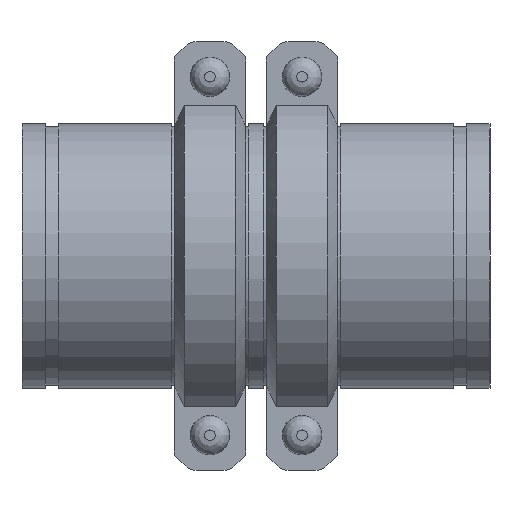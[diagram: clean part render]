
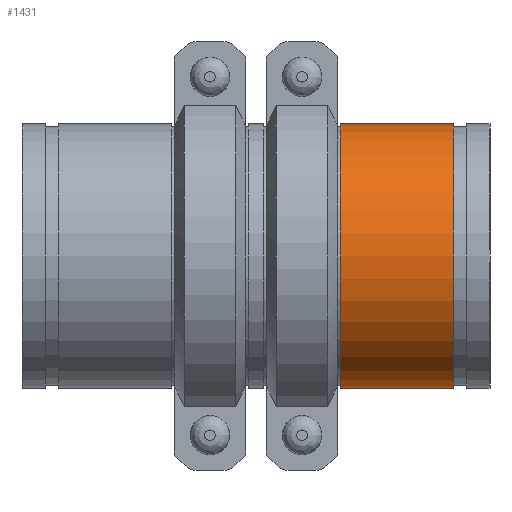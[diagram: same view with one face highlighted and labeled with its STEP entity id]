
A CAD part, front view. The second image highlights one B-rep face of the part: STEP entity #1431.
In plain terms, the highlighted cylindrical face has radius 109.537 mm (diameter 219.075 mm), a full revolution.
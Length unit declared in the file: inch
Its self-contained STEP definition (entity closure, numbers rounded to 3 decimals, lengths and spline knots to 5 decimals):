
#59=LINE('',#2295,#152);
#152=VECTOR('',#1852,4.3125);
#245=CYLINDRICAL_SURFACE('',#1638,4.3125);
#302=FACE_OUTER_BOUND('',#387,.T.);
#387=EDGE_LOOP('',(#940,#941,#942,#943,#944,#945));
#497=CIRCLE('',#1636,4.3125);
#498=CIRCLE('',#1637,4.3125);
#499=CIRCLE('',#1639,4.3125);
#500=CIRCLE('',#1640,4.3125);
#589=VERTEX_POINT('',#2286);
#590=VERTEX_POINT('',#2287);
#591=VERTEX_POINT('',#2291);
#592=VERTEX_POINT('',#2292);
#730=EDGE_CURVE('',#589,#590,#497,.T.);
#731=EDGE_CURVE('',#590,#589,#498,.T.);
#732=EDGE_CURVE('',#591,#592,#499,.T.);
#733=EDGE_CURVE('',#592,#591,#500,.T.);
#734=EDGE_CURVE('',#592,#590,#59,.T.);
#940=ORIENTED_EDGE('',*,*,#732,.F.);
#941=ORIENTED_EDGE('',*,*,#733,.F.);
#942=ORIENTED_EDGE('',*,*,#734,.T.);
#943=ORIENTED_EDGE('',*,*,#731,.T.);
#944=ORIENTED_EDGE('',*,*,#730,.T.);
#945=ORIENTED_EDGE('',*,*,#734,.F.);
#1431=ADVANCED_FACE('',(#302),#245,.T.);
#1636=AXIS2_PLACEMENT_3D('',#2288,#1842,#1843);
#1637=AXIS2_PLACEMENT_3D('',#2289,#1844,#1845);
#1638=AXIS2_PLACEMENT_3D('',#2290,#1846,#1847);
#1639=AXIS2_PLACEMENT_3D('',#2293,#1848,#1849);
#1640=AXIS2_PLACEMENT_3D('',#2294,#1850,#1851);
#1842=DIRECTION('center_axis',(-1.,0.,0.));
#1843=DIRECTION('ref_axis',(0.,0.,1.));
#1844=DIRECTION('center_axis',(-1.,0.,0.));
#1845=DIRECTION('ref_axis',(0.,0.,1.));
#1846=DIRECTION('center_axis',(-1.,0.,0.));
#1847=DIRECTION('ref_axis',(0.,1.,0.));
#1848=DIRECTION('center_axis',(-1.,0.,0.));
#1849=DIRECTION('ref_axis',(0.,0.,1.));
#1850=DIRECTION('center_axis',(-1.,0.,0.));
#1851=DIRECTION('ref_axis',(0.,0.,1.));
#1852=DIRECTION('',(1.,0.,0.));
#2286=CARTESIAN_POINT('',(1.842,4.3125,0.));
#2287=CARTESIAN_POINT('',(1.842,-4.3125,0.));
#2288=CARTESIAN_POINT('Origin',(1.842,0.,0.));
#2289=CARTESIAN_POINT('Origin',(1.842,0.,0.));
#2290=CARTESIAN_POINT('Origin',(0.,0.,
0.));
#2291=CARTESIAN_POINT('',(-1.842,4.3125,0.));
#2292=CARTESIAN_POINT('',(-1.842,-4.3125,0.));
#2293=CARTESIAN_POINT('Origin',(-1.842,0.,0.));
#2294=CARTESIAN_POINT('Origin',(-1.842,0.,0.));
#2295=CARTESIAN_POINT('',(0.,-4.3125,0.));
